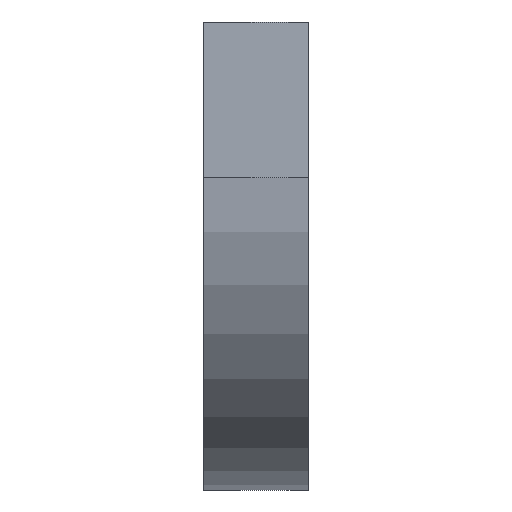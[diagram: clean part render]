
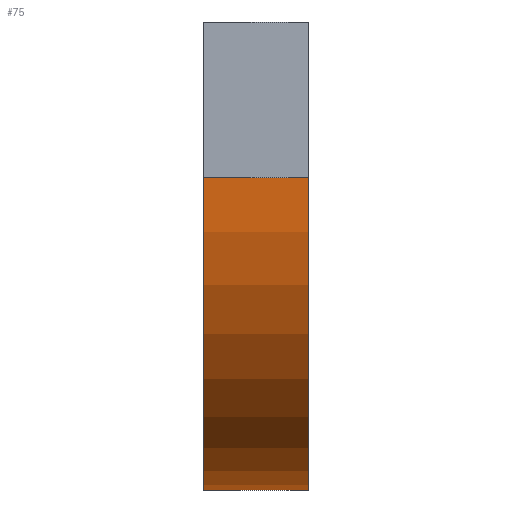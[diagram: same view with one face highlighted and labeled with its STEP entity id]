
A CAD part, left-side view. The second image highlights one B-rep face of the part: STEP entity #75.
In plain terms, the highlighted cylindrical face has radius 300 mm (diameter 600 mm), a partial arc.
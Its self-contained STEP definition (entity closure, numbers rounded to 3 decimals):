
#45 = VERTEX_POINT ( 'NONE', #1567 ) ;
#75 = ADVANCED_FACE ( 'NONE', ( #251 ), #826, .T. ) ;
#90 = ORIENTED_EDGE ( 'NONE', *, *, #1572, .T. ) ;
#122 = CARTESIAN_POINT ( 'NONE',  ( 300., 0., -150. ) ) ;
#152 = DIRECTION ( 'NONE',  ( -1., 0., 0. ) ) ;
#202 = EDGE_CURVE ( 'NONE', #1419, #1324, #1456, .T. ) ;
#204 = EDGE_LOOP ( 'NONE', ( #1302, #552, #90, #518 ) ) ;
#251 = FACE_OUTER_BOUND ( 'NONE', #204, .T. ) ;
#363 = DIRECTION ( 'NONE',  ( 0., -1., 0. ) ) ;
#395 = EDGE_CURVE ( 'NONE', #45, #1324, #1196, .T. ) ;
#499 = CARTESIAN_POINT ( 'NONE',  ( 0., 0., -150. ) ) ;
#518 = ORIENTED_EDGE ( 'NONE', *, *, #395, .T. ) ;
#552 = ORIENTED_EDGE ( 'NONE', *, *, #1223, .F. ) ;
#592 = AXIS2_PLACEMENT_3D ( 'NONE', #122, #861, #689 ) ;
#689 = DIRECTION ( 'NONE',  ( 0., 0., -1. ) ) ;
#704 = LINE ( 'NONE', #499, #758 ) ;
#758 = VECTOR ( 'NONE', #363, 1000. ) ;
#773 = CARTESIAN_POINT ( 'NONE',  ( 300., 0., -450. ) ) ;
#777 = CIRCLE ( 'NONE', #1139, 300. ) ;
#826 = CYLINDRICAL_SURFACE ( 'NONE', #592, 300. ) ;
#861 = DIRECTION ( 'NONE',  ( 0., -1., 0. ) ) ;
#932 = DIRECTION ( 'NONE',  ( 0., -1., 0. ) ) ;
#940 = DIRECTION ( 'NONE',  ( -1., 0., 0. ) ) ;
#974 = AXIS2_PLACEMENT_3D ( 'NONE', #1471, #1048, #152 ) ;
#1048 = DIRECTION ( 'NONE',  ( 0., -1., 0. ) ) ;
#1076 = DIRECTION ( 'NONE',  ( 0., -1., 0. ) ) ;
#1089 = CARTESIAN_POINT ( 'NONE',  ( 300., 100., -150. ) ) ;
#1139 = AXIS2_PLACEMENT_3D ( 'NONE', #1089, #1076, #940 ) ;
#1196 = LINE ( 'NONE', #773, #1709 ) ;
#1223 = EDGE_CURVE ( 'NONE', #1459, #1419, #704, .T. ) ;
#1249 = CARTESIAN_POINT ( 'NONE',  ( 0., 0., -150. ) ) ;
#1302 = ORIENTED_EDGE ( 'NONE', *, *, #202, .F. ) ;
#1324 = VERTEX_POINT ( 'NONE', #1824 ) ;
#1419 = VERTEX_POINT ( 'NONE', #1249 ) ;
#1434 = CARTESIAN_POINT ( 'NONE',  ( 0., 100., -150. ) ) ;
#1456 = CIRCLE ( 'NONE', #974, 300. ) ;
#1459 = VERTEX_POINT ( 'NONE', #1434 ) ;
#1471 = CARTESIAN_POINT ( 'NONE',  ( 300., 0., -150. ) ) ;
#1567 = CARTESIAN_POINT ( 'NONE',  ( 300., 100., -450. ) ) ;
#1572 = EDGE_CURVE ( 'NONE', #1459, #45, #777, .T. ) ;
#1709 = VECTOR ( 'NONE', #932, 1000. ) ;
#1824 = CARTESIAN_POINT ( 'NONE',  ( 300., 0., -450. ) ) ;
